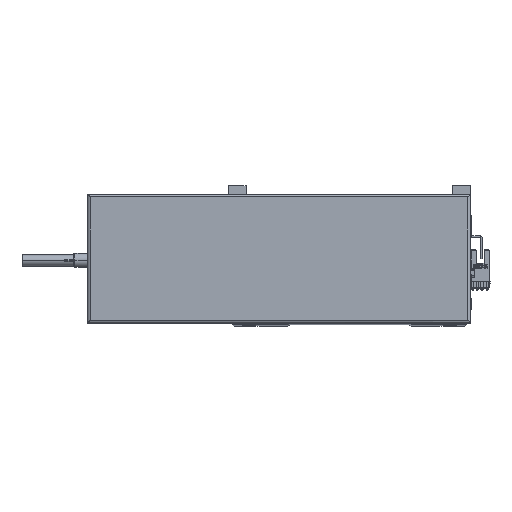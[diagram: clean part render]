
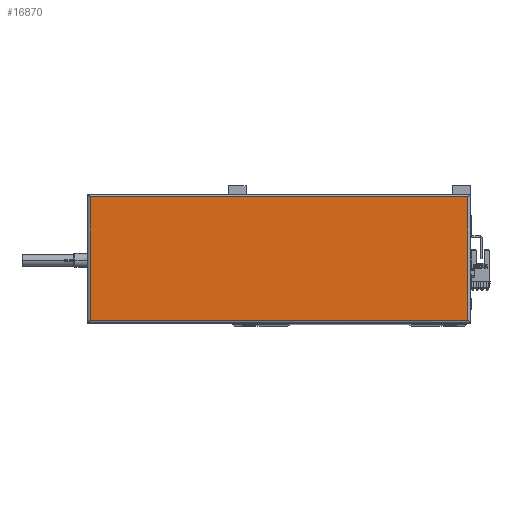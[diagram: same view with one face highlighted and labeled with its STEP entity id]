
A CAD part, top view. The second image highlights one B-rep face of the part: STEP entity #16870.
In plain terms, the highlighted planar face has unit normal (0, 0, 1).
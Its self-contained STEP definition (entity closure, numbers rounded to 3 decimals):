
#1632 = ORIENTED_EDGE ( 'NONE', *, *, #32836, .T. ) ;
#1970 = VERTEX_POINT ( 'NONE', #3324 ) ;
#1988 = VERTEX_POINT ( 'NONE', #18716 ) ;
#3152 = DIRECTION ( 'NONE',  ( 0., 1., 0. ) ) ;
#3324 = CARTESIAN_POINT ( 'NONE',  ( 2., 2., 44.8 ) ) ;
#3403 = LINE ( 'NONE', #27719, #31932 ) ;
#4953 = EDGE_CURVE ( 'NONE', #38246, #49151, #18917, .T. ) ;
#7316 = EDGE_CURVE ( 'NONE', #1988, #38246, #44576, .T. ) ;
#8168 = VECTOR ( 'NONE', #31096, 1000. ) ;
#9477 = DIRECTION ( 'NONE',  ( 0., 0., 1. ) ) ;
#10156 = ORIENTED_EDGE ( 'NONE', *, *, #4953, .T. ) ;
#10668 = CARTESIAN_POINT ( 'NONE',  ( 0., 88., 44.8 ) ) ;
#11117 = AXIS2_PLACEMENT_3D ( 'NONE', #21114, #9477, #48110 ) ;
#12275 = CARTESIAN_POINT ( 'NONE',  ( 2., 0., 44.8 ) ) ;
#16174 = DIRECTION ( 'NONE',  ( 1., 0., 0. ) ) ;
#16622 = LINE ( 'NONE', #12275, #8168 ) ;
#16870 = ADVANCED_FACE ( 'NONE', ( #39447 ), #24521, .T. ) ;
#18716 = CARTESIAN_POINT ( 'NONE',  ( 265., 2., 44.8 ) ) ;
#18917 = LINE ( 'NONE', #10668, #36610 ) ;
#21114 = CARTESIAN_POINT ( 'NONE',  ( 133.5, 45., 44.8 ) ) ;
#23137 = CARTESIAN_POINT ( 'NONE',  ( 2., 88., 44.8 ) ) ;
#24521 = PLANE ( 'NONE',  #11117 ) ;
#27719 = CARTESIAN_POINT ( 'NONE',  ( 267., 2., 44.8 ) ) ;
#31096 = DIRECTION ( 'NONE',  ( 0., -1., 0. ) ) ;
#31932 = VECTOR ( 'NONE', #16174, 1000. ) ;
#32836 = EDGE_CURVE ( 'NONE', #1970, #1988, #3403, .T. ) ;
#35294 = ORIENTED_EDGE ( 'NONE', *, *, #7316, .T. ) ;
#35789 = ORIENTED_EDGE ( 'NONE', *, *, #44776, .T. ) ;
#36610 = VECTOR ( 'NONE', #50007, 1000. ) ;
#37943 = VECTOR ( 'NONE', #3152, 1000. ) ;
#38246 = VERTEX_POINT ( 'NONE', #47662 ) ;
#39447 = FACE_OUTER_BOUND ( 'NONE', #40408, .T. ) ;
#40408 = EDGE_LOOP ( 'NONE', ( #35294, #10156, #35789, #1632 ) ) ;
#44576 = LINE ( 'NONE', #49652, #37943 ) ;
#44776 = EDGE_CURVE ( 'NONE', #49151, #1970, #16622, .T. ) ;
#47662 = CARTESIAN_POINT ( 'NONE',  ( 265., 88., 44.8 ) ) ;
#48110 = DIRECTION ( 'NONE',  ( 1., 0., 0. ) ) ;
#49151 = VERTEX_POINT ( 'NONE', #23137 ) ;
#49652 = CARTESIAN_POINT ( 'NONE',  ( 265., 90., 44.8 ) ) ;
#50007 = DIRECTION ( 'NONE',  ( -1., 0., 0. ) ) ;
